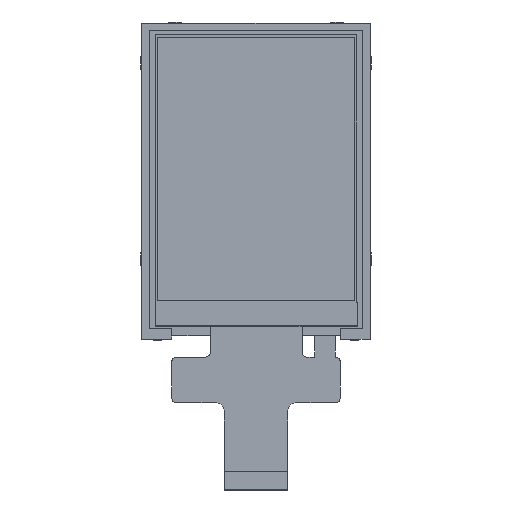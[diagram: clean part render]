
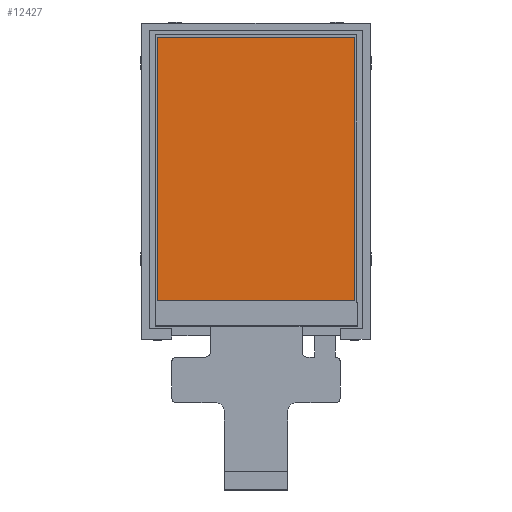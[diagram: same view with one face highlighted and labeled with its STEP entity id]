
A CAD part, top view. The second image highlights one B-rep face of the part: STEP entity #12427.
In plain terms, the highlighted planar face has unit normal (0, 0, 1).
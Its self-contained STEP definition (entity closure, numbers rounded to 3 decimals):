
#282 = ORIENTED_EDGE ( 'NONE', *, *, #5120, .T. ) ;
#1086 = VECTOR ( 'NONE', #23172, 1000. ) ;
#3363 = VECTOR ( 'NONE', #20435, 1000. ) ;
#4386 = CARTESIAN_POINT ( 'NONE',  ( 46.6, -60.65, 4.55 ) ) ;
#4406 = CARTESIAN_POINT ( 'NONE',  ( 3.4, 0., 4.55 ) ) ;
#5120 = EDGE_CURVE ( 'NONE', #32559, #24797, #28961, .T. ) ;
#5273 = ORIENTED_EDGE ( 'NONE', *, *, #30016, .T. ) ;
#5766 = CARTESIAN_POINT ( 'NONE',  ( 0., -60.65, 4.55 ) ) ;
#6671 = EDGE_LOOP ( 'NONE', ( #10759, #282, #32674, #5273 ) ) ;
#8152 = EDGE_CURVE ( 'NONE', #20280, #32559, #25871, .T. ) ;
#9137 = CARTESIAN_POINT ( 'NONE',  ( 0., 0., 4.55 ) ) ;
#10376 = CARTESIAN_POINT ( 'NONE',  ( 46.6, 0., 4.55 ) ) ;
#10759 = ORIENTED_EDGE ( 'NONE', *, *, #8152, .T. ) ;
#11841 = CARTESIAN_POINT ( 'NONE',  ( 46.6, -3.05, 4.55 ) ) ;
#12092 = VECTOR ( 'NONE', #15322, 1000. ) ;
#12427 = ADVANCED_FACE ( 'NONE', ( #30647 ), #20417, .F. ) ;
#12606 = CARTESIAN_POINT ( 'NONE',  ( 0., -3.05, 4.55 ) ) ;
#15322 = DIRECTION ( 'NONE',  ( 0., -1., 0. ) ) ;
#20224 = DIRECTION ( 'NONE',  ( 0., 0., -1. ) ) ;
#20280 = VERTEX_POINT ( 'NONE', #11841 ) ;
#20394 = AXIS2_PLACEMENT_3D ( 'NONE', #9137, #20224, #31183 ) ;
#20417 = PLANE ( 'NONE',  #20394 ) ;
#20435 = DIRECTION ( 'NONE',  ( 1., 0., 0. ) ) ;
#21121 = DIRECTION ( 'NONE',  ( 0., 1., 0. ) ) ;
#23172 = DIRECTION ( 'NONE',  ( -1., 0., 0. ) ) ;
#24797 = VERTEX_POINT ( 'NONE', #25219 ) ;
#25219 = CARTESIAN_POINT ( 'NONE',  ( 3.4, -60.65, 4.55 ) ) ;
#25871 = LINE ( 'NONE', #12606, #1086 ) ;
#28213 = CARTESIAN_POINT ( 'NONE',  ( 3.4, -3.05, 4.55 ) ) ;
#28961 = LINE ( 'NONE', #4406, #12092 ) ;
#29273 = VERTEX_POINT ( 'NONE', #4386 ) ;
#29382 = LINE ( 'NONE', #10376, #29516 ) ;
#29516 = VECTOR ( 'NONE', #21121, 1000. ) ;
#30016 = EDGE_CURVE ( 'NONE', #29273, #20280, #29382, .T. ) ;
#30319 = LINE ( 'NONE', #5766, #3363 ) ;
#30647 = FACE_OUTER_BOUND ( 'NONE', #6671, .T. ) ;
#31183 = DIRECTION ( 'NONE',  ( -1., 0., 0. ) ) ;
#32559 = VERTEX_POINT ( 'NONE', #28213 ) ;
#32674 = ORIENTED_EDGE ( 'NONE', *, *, #35453, .T. ) ;
#35453 = EDGE_CURVE ( 'NONE', #24797, #29273, #30319, .T. ) ;
